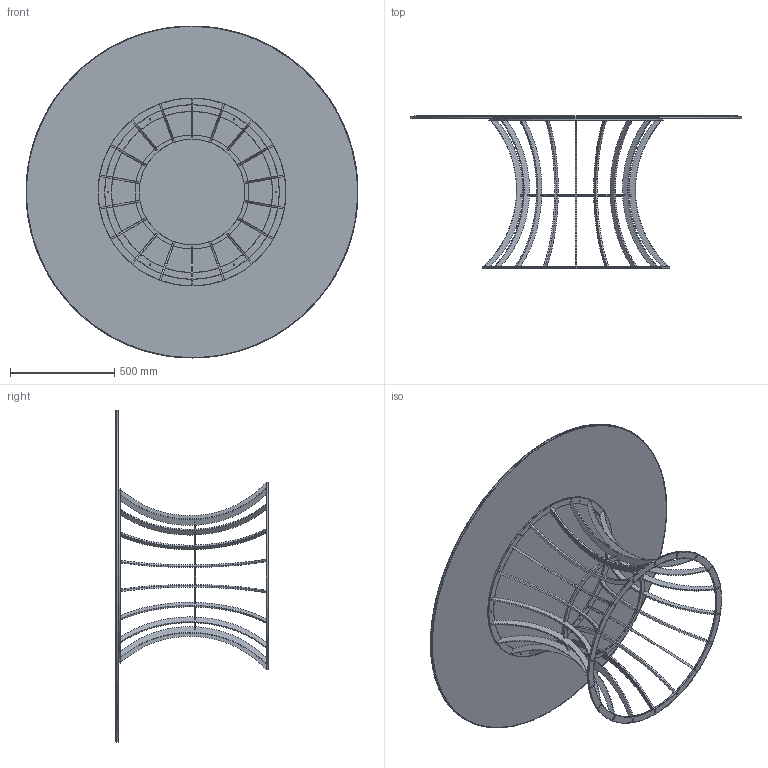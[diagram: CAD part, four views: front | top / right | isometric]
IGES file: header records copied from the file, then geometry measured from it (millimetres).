
Start section: SolidWorks IGES file using analytic representation for surfaces
Global section: file name: C:\Users\GrafikTest\Desktop\SW çizimler\onix masa\onix 90'lýk.IGS; native system: SolidWorks 2015; preprocessor: SolidWorks 2015; author: GrafikTest; date: 150406.090353; units: millimetre
Bounding box: 1590 x 728 x 1590 mm (x, y, z)
Surface area: 5541897.9 mm2 (no closed solid volume)
Topology: 0 solids, 0 shells, 3636 faces, 22564 edges, 22564 vertices
Faces by surface type: bspline 3594, revolution 42
